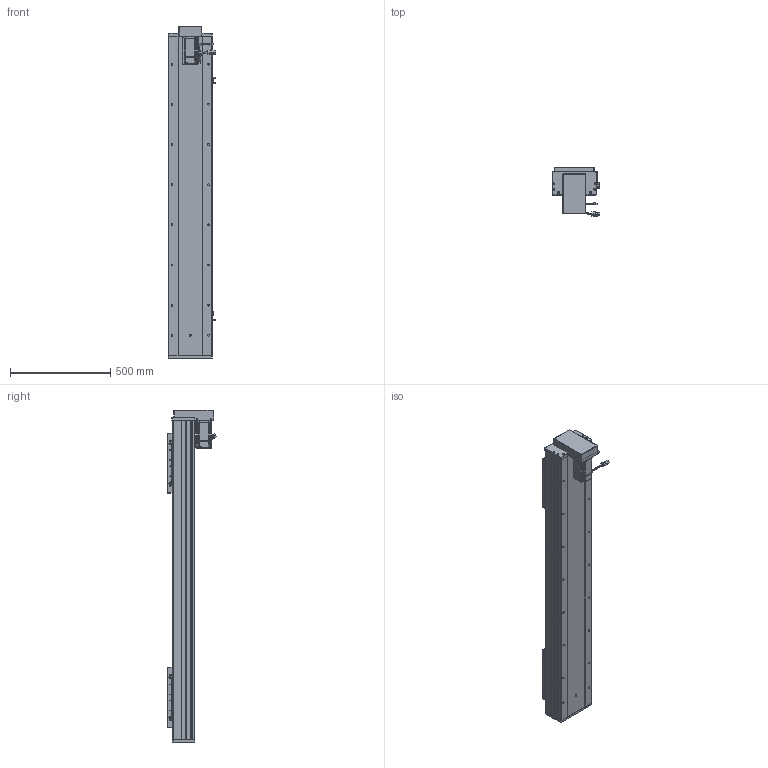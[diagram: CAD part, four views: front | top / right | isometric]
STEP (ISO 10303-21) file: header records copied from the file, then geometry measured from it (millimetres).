
FILE_DESCRIPTION (( 'STEP AP203' ), '1' );
FILE_NAME ('RY220F-L2525-800-BK-邧嶺.SLDASM_1150.step', '2022-08-06T08:07:54', ( '' ), ( '' ), 'SwSTEP 2.0', 'SolidWorks 2016', '' );
FILE_SCHEMA (( 'CONFIG_CONTROL_DESIGN' ));
Length unit declared in the file: millimetre
Products named in the file (15): RY220F-詩湍揤踡輸; RY220F臏賑釱25-32佪裝; RY220F-蛌殏奻裔啣-800_1150; RY220狟殏萇儂假蚾啣; RY220F-L2525-800-BK-邧嶺.SLDASM_1150; 侐源滅袉蝶; RY220F-滅鳥奻裔; 滅袉蝶18-24; RY220F綴裔啣; RY220F蛌殏菁釱-800-邧嶺_1150; RY220F-祥凄詩湍-蛌殏-800_1150; RY220狟殏萇儂欶; RY220F-672覜茼んえ; 覜茼ん672; 怢湛750W_ECMA-CX0807ES
Assembly tree (24 placements, depth 2):
  RY220F-L2525-800-BK-邧嶺.SLDASM_1150
    RY220F蛌殏菁釱-800-邧嶺_1150
    RY220F-蛌殏奻裔啣-800_1150  x2
    怢湛750W_ECMA-CX0807ES
    RY220F臏賑釱25-32佪裝  x2
    RY220F-滅鳥奻裔  x2
    滅袉蝶18-24  x3
    RY220F綴裔啣
    RY220F-祥凄詩湍-蛌殏-800_1150
    RY220F-詩湍揤踡輸  x2
    覜茼ん672  x3
    RY220F-672覜茼んえ  x2
    侐源滅袉蝶  x2
    RY220狟殏萇儂假蚾啣
    RY220狟殏萇儂欶
Bounding box: 237.27 x 247.24 x 1653 mm (x, y, z)
Volume: 15586288.2 mm3; surface area: 4042808.7 mm2
Topology: 25 solids, 25 shells, 2799 faces, 7602 edges, 4695 vertices
Faces by surface type: cylinder 1246, plane 1062, cone 420, bspline 45, sphere 16, torus 10
Entity records: 69433 total; most frequent: CARTESIAN_POINT 18785, ORIENTED_EDGE 10234, DIRECTION 9953, EDGE_CURVE 5117, AXIS2_PLACEMENT_3D 3530, VERTEX_POINT 3311, VECTOR 2893, LINE 2893
